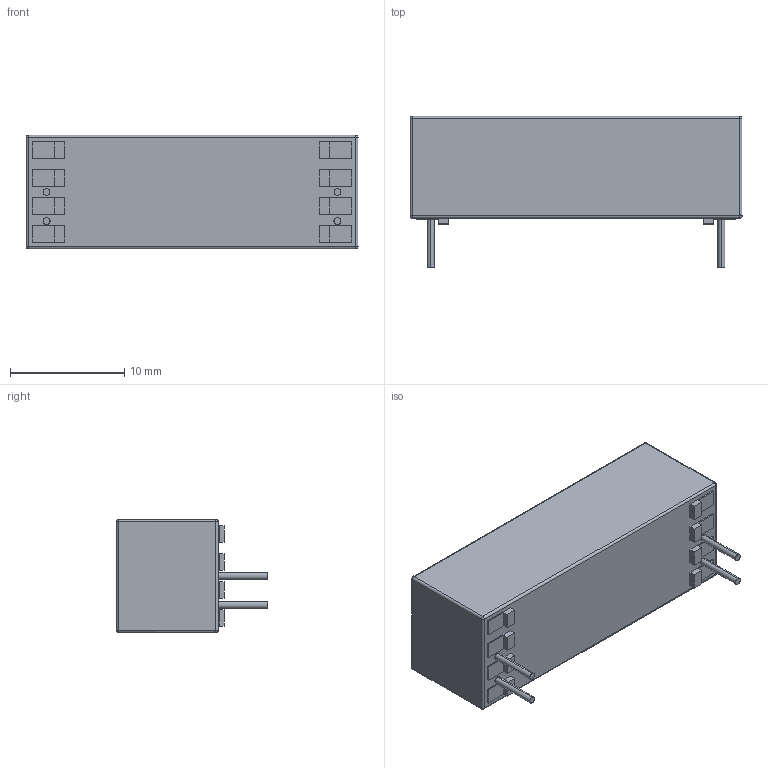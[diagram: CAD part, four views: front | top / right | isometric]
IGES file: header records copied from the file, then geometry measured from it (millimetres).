
Start section: SolidWorks IGES file using analytic representation for surfaces
Global section: file name: T:\Relays in Solidworks\Batch 4\80-1-A.IGS; native system: SolidWorks 2009; preprocessor: SolidWorks 2009; author: alex.leming; date: 100629.161333; units: millimetre
Bounding box: 29 x 13.2 x 9.9 mm (x, y, z)
Surface area: 1303.6 mm2 (no closed solid volume)
Topology: 0 solids, 0 shells, 724 faces, 7125 edges, 7118 vertices
Faces by surface type: bspline 690, revolution 34
